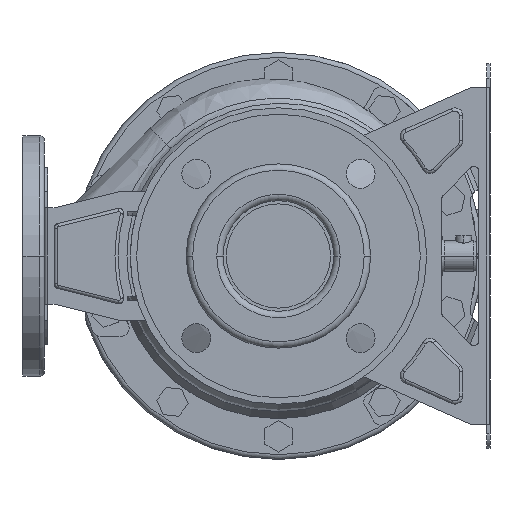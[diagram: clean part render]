
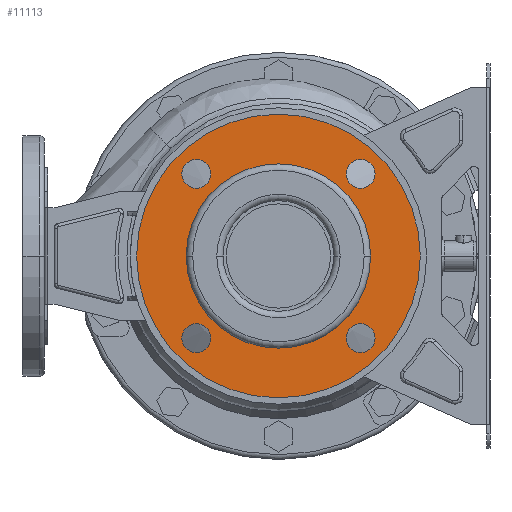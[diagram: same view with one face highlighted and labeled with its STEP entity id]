
A CAD part, left-side view. The second image highlights one B-rep face of the part: STEP entity #11113.
In plain terms, the highlighted planar face has unit normal (-1, 0, 0).
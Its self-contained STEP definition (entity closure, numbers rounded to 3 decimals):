
#10446=CARTESIAN_POINT('',(12.,0.,0.));
#10447=DIRECTION('',(-1.,0.,0.));
#10448=DIRECTION('',(0.,1.,0.));
#10449=AXIS2_PLACEMENT_3D('',#10446,#10447,#10448);
#10454=CARTESIAN_POINT('',(12.,0.,0.));
#10455=DIRECTION('',(1.,0.,0.));
#10456=DIRECTION('',(0.,1.,0.));
#10457=AXIS2_PLACEMENT_3D('',#10454,#10455,#10456);
#10462=CARTESIAN_POINT('',(12.,-51.265,51.265));
#10463=DIRECTION('',(1.,0.,0.));
#10464=DIRECTION('',(0.,1.,0.));
#10465=AXIS2_PLACEMENT_3D('',#10462,#10463,#10464);
#10470=CARTESIAN_POINT('',(12.,-51.265,51.265));
#10471=DIRECTION('',(1.,0.,0.));
#10472=DIRECTION('',(0.,-1.,0.));
#10473=AXIS2_PLACEMENT_3D('',#10470,#10471,#10472);
#10478=CARTESIAN_POINT('',(12.,-51.265,-51.265));
#10479=DIRECTION('',(1.,0.,0.));
#10480=DIRECTION('',(0.,0.,1.));
#10481=AXIS2_PLACEMENT_3D('',#10478,#10479,#10480);
#10486=CARTESIAN_POINT('',(12.,-51.265,-51.265));
#10487=DIRECTION('',(1.,0.,0.));
#10488=DIRECTION('',(0.,0.,-1.));
#10489=AXIS2_PLACEMENT_3D('',#10486,#10487,#10488);
#10494=CARTESIAN_POINT('',(12.,51.265,-51.265));
#10495=DIRECTION('',(1.,0.,0.));
#10496=DIRECTION('',(0.,-1.,0.));
#10497=AXIS2_PLACEMENT_3D('',#10494,#10495,#10496);
#10502=CARTESIAN_POINT('',(12.,51.265,-51.265));
#10503=DIRECTION('',(1.,0.,0.));
#10504=DIRECTION('',(0.,1.,0.));
#10505=AXIS2_PLACEMENT_3D('',#10502,#10503,#10504);
#10510=CARTESIAN_POINT('',(12.,51.265,51.265));
#10511=DIRECTION('',(1.,0.,0.));
#10512=DIRECTION('',(0.,0.,-1.));
#10513=AXIS2_PLACEMENT_3D('',#10510,#10511,#10512);
#10518=CARTESIAN_POINT('',(12.,51.265,51.265));
#10519=DIRECTION('',(1.,0.,0.));
#10520=DIRECTION('',(0.,0.,1.));
#10521=AXIS2_PLACEMENT_3D('',#10518,#10519,#10520);
#10526=CARTESIAN_POINT('',(12.,0.,0.));
#10527=DIRECTION('',(1.,0.,0.));
#10528=DIRECTION('',(0.,1.,0.));
#10529=AXIS2_PLACEMENT_3D('',#10526,#10527,#10528);
#10548=CARTESIAN_POINT('',(12.,0.,0.));
#10549=DIRECTION('',(-1.,0.,0.));
#10550=DIRECTION('',(0.,1.,0.));
#10551=AXIS2_PLACEMENT_3D('',#10548,#10549,#10550);
#10713=CARTESIAN_POINT('',(12.,88.5,0.));
#10715=VERTEX_POINT('',#10713);
#10716=CARTESIAN_POINT('',(12.,57.5,0.));
#10718=VERTEX_POINT('',#10716);
#10745=CARTESIAN_POINT('',(12.,-88.5,0.));
#10747=VERTEX_POINT('',#10745);
#10748=CARTESIAN_POINT('',(12.,-57.5,0.));
#10750=VERTEX_POINT('',#10748);
#10760=CARTESIAN_POINT('',(12.,-42.265,51.265));
#10761=CARTESIAN_POINT('',(12.,-60.265,51.265));
#10762=VERTEX_POINT('',#10760);
#10763=VERTEX_POINT('',#10761);
#10768=CARTESIAN_POINT('',(12.,-51.265,-42.265));
#10769=CARTESIAN_POINT('',(12.,-51.265,-60.265));
#10770=VERTEX_POINT('',#10768);
#10771=VERTEX_POINT('',#10769);
#10776=CARTESIAN_POINT('',(12.,42.265,-51.265));
#10777=CARTESIAN_POINT('',(12.,60.265,-51.265));
#10778=VERTEX_POINT('',#10776);
#10779=VERTEX_POINT('',#10777);
#10784=CARTESIAN_POINT('',(12.,51.265,42.265));
#10785=CARTESIAN_POINT('',(12.,51.265,60.265));
#10786=VERTEX_POINT('',#10784);
#10787=VERTEX_POINT('',#10785);
#11074=CARTESIAN_POINT('',(12.,0.,0.));
#11075=DIRECTION('',(1.,0.,0.));
#11076=DIRECTION('',(0.,-1.,0.));
#11077=AXIS2_PLACEMENT_3D('',#11074,#11075,#11076);
#11078=PLANE('',#11077);
#11079=ORIENTED_EDGE('',*,*,#11067,.F.);
#11080=ORIENTED_EDGE('',*,*,#11056,.T.);
#11081=EDGE_LOOP('',(#11079,#11080));
#11082=FACE_OUTER_BOUND('',#11081,.F.);
#11084=ORIENTED_EDGE('',*,*,#11083,.F.);
#11086=ORIENTED_EDGE('',*,*,#11085,.T.);
#11087=EDGE_LOOP('',(#11084,#11086));
#11088=FACE_BOUND('',#11087,.F.);
#11090=ORIENTED_EDGE('',*,*,#11089,.F.);
#11092=ORIENTED_EDGE('',*,*,#11091,.F.);
#11093=EDGE_LOOP('',(#11090,#11092));
#11094=FACE_BOUND('',#11093,.F.);
#11096=ORIENTED_EDGE('',*,*,#11095,.F.);
#11098=ORIENTED_EDGE('',*,*,#11097,.F.);
#11099=EDGE_LOOP('',(#11096,#11098));
#11100=FACE_BOUND('',#11099,.F.);
#11102=ORIENTED_EDGE('',*,*,#11101,.F.);
#11104=ORIENTED_EDGE('',*,*,#11103,.F.);
#11105=EDGE_LOOP('',(#11102,#11104));
#11106=FACE_BOUND('',#11105,.F.);
#11108=ORIENTED_EDGE('',*,*,#11107,.F.);
#11110=ORIENTED_EDGE('',*,*,#11109,.F.);
#11111=EDGE_LOOP('',(#11108,#11110));
#11112=FACE_BOUND('',#11111,.F.);
#10450=CIRCLE('',#10449,88.5);
#10458=CIRCLE('',#10457,88.5);
#10466=CIRCLE('',#10465,9.);
#10474=CIRCLE('',#10473,9.);
#10482=CIRCLE('',#10481,9.);
#10490=CIRCLE('',#10489,9.);
#10498=CIRCLE('',#10497,9.);
#10506=CIRCLE('',#10505,9.);
#10514=CIRCLE('',#10513,9.);
#10522=CIRCLE('',#10521,9.);
#10530=CIRCLE('',#10529,57.5);
#10552=CIRCLE('',#10551,57.5);
#11056=EDGE_CURVE('',#10715,#10747,#10458,.T.);
#11067=EDGE_CURVE('',#10715,#10747,#10450,.T.);
#11083=EDGE_CURVE('',#10718,#10750,#10530,.T.);
#11085=EDGE_CURVE('',#10718,#10750,#10552,.T.);
#11089=EDGE_CURVE('',#10762,#10763,#10466,.T.);
#11091=EDGE_CURVE('',#10763,#10762,#10474,.T.);
#11095=EDGE_CURVE('',#10770,#10771,#10482,.T.);
#11097=EDGE_CURVE('',#10771,#10770,#10490,.T.);
#11101=EDGE_CURVE('',#10778,#10779,#10498,.T.);
#11103=EDGE_CURVE('',#10779,#10778,#10506,.T.);
#11107=EDGE_CURVE('',#10786,#10787,#10514,.T.);
#11109=EDGE_CURVE('',#10787,#10786,#10522,.T.);
#11113=ADVANCED_FACE('',(#11082,#11088,#11094,#11100,#11106,#11112),#11078,.F.);
